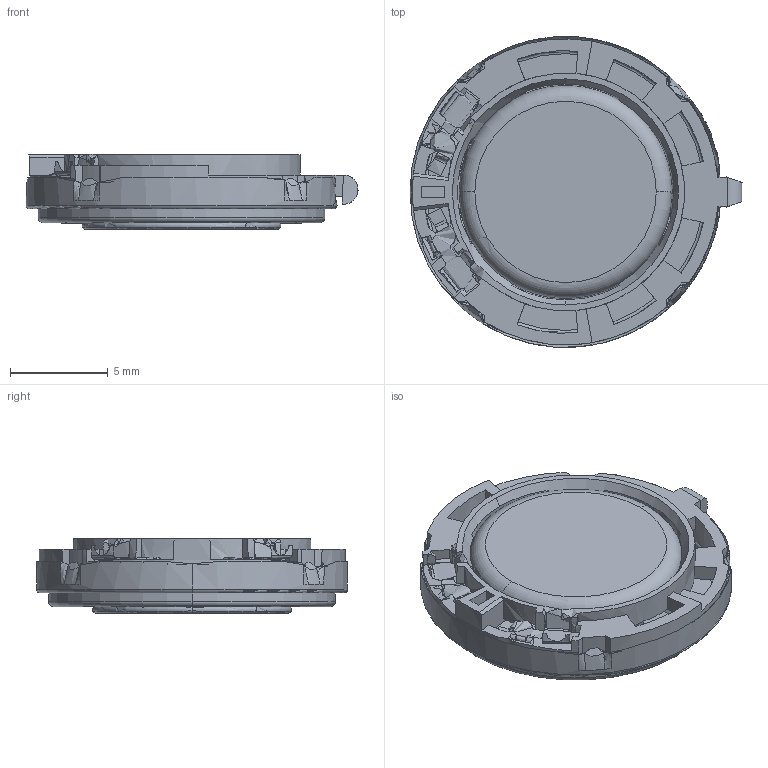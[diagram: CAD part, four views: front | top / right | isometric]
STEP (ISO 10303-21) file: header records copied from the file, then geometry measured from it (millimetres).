
FILE_DESCRIPTION((''),'2;1');
FILE_NAME('SPEAKER-16D-PSS_PRT','2008-06-30T',('GRA'),(''),'PRO/ENGINEER BY PARAMETRIC TECHNOLOGY CORPORATION, 2006170','PRO/ENGINEER BY PARAMETRIC TECHNOLOGY CORPORATION, 2006170','');
FILE_SCHEMA(('CONFIG_CONTROL_DESIGN'));
Length unit declared in the file: inch
Products named in the file (1): SPEAKER-16D-PSS_PRT
Bounding box: 17.02 x 15.95 x 3.85 mm (x, y, z)
Volume: 210 mm3; surface area: 1299.7 mm2
Topology: 1 solids, 6 shells, 426 faces, 1121 edges, 667 vertices
Faces by surface type: plane 232, cylinder 101, bspline 40, torus 29, cone 24
Entity records: 15785 total; most frequent: CARTESIAN_POINT 5771, ORIENTED_EDGE 2246, DIRECTION 1816, EDGE_CURVE 1123, VERTEX_POINT 667, AXIS2_PLACEMENT_3D 629, VECTOR 558, LINE 558
